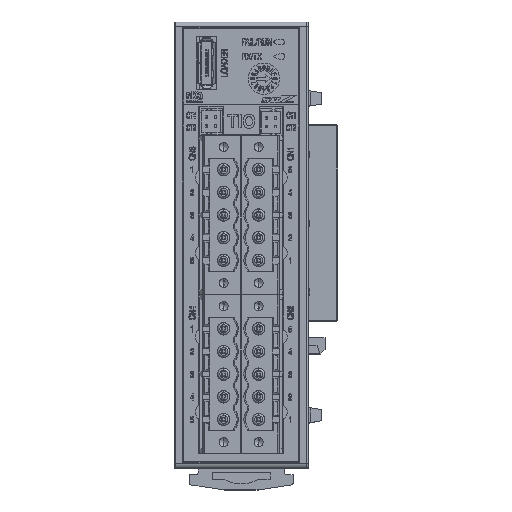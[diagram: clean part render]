
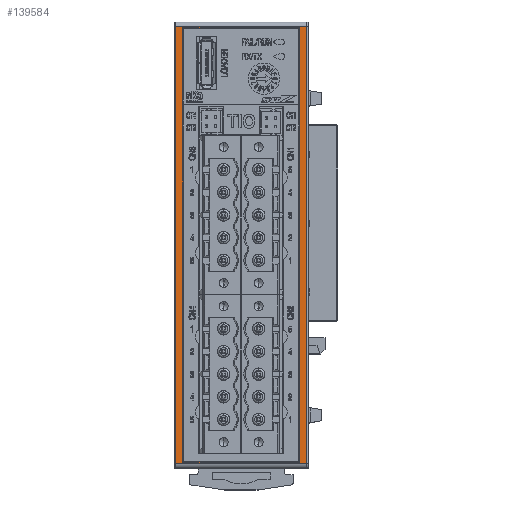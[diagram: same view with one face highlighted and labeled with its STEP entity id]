
A CAD part, top view. The second image highlights one B-rep face of the part: STEP entity #139584.
In plain terms, the highlighted planar face has unit normal (0, 0, 1).
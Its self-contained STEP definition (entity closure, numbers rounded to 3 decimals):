
#200 = ORIENTED_EDGE ( 'NONE', *, *, #58895, .T. ) ;
#2503 = LINE ( 'NONE', #114619, #36955 ) ;
#5827 = CARTESIAN_POINT ( 'NONE',  ( -15., -50., 76.85 ) ) ;
#6584 = CARTESIAN_POINT ( 'NONE',  ( -13.05, 48.7, 76.85 ) ) ;
#8669 = DIRECTION ( 'NONE',  ( 1., 0., 0. ) ) ;
#9363 = CARTESIAN_POINT ( 'NONE',  ( -13.05, -48.7, 76.85 ) ) ;
#11363 = EDGE_CURVE ( 'NONE', #145182, #145999, #116810, .T. ) ;
#11618 = DIRECTION ( 'NONE',  ( 0., 1., 0. ) ) ;
#12581 = VERTEX_POINT ( 'NONE', #17096 ) ;
#17096 = CARTESIAN_POINT ( 'NONE',  ( 14.75, -49., 76.85 ) ) ;
#17740 = DIRECTION ( 'NONE',  ( 0., 0., 1. ) ) ;
#24517 = VECTOR ( 'NONE', #120252, 1000. ) ;
#26663 = DIRECTION ( 'NONE',  ( 0., -1., 0. ) ) ;
#35628 = VECTOR ( 'NONE', #11618, 1000. ) ;
#36876 = LINE ( 'NONE', #156458, #146297 ) ;
#36955 = VECTOR ( 'NONE', #8669, 1000. ) ;
#37661 = CARTESIAN_POINT ( 'NONE',  ( -14.75, -49., 76.85 ) ) ;
#38200 = EDGE_CURVE ( 'NONE', #145999, #51884, #105675, .T. ) ;
#41458 = VERTEX_POINT ( 'NONE', #71950 ) ;
#44676 = DIRECTION ( 'NONE',  ( -1., 0., 0. ) ) ;
#44796 = FACE_BOUND ( 'NONE', #88548, .T. ) ;
#47564 = CARTESIAN_POINT ( 'NONE',  ( 13.05, -48.7, 76.85 ) ) ;
#50129 = DIRECTION ( 'NONE',  ( 0., -1., 0. ) ) ;
#51658 = DIRECTION ( 'NONE',  ( -1., 0., 0. ) ) ;
#51884 = VERTEX_POINT ( 'NONE', #54774 ) ;
#51983 = DIRECTION ( 'NONE',  ( 0., 1., 0. ) ) ;
#53085 = AXIS2_PLACEMENT_3D ( 'NONE', #5827, #17740, #83511 ) ;
#53733 = LINE ( 'NONE', #114741, #75258 ) ;
#54774 = CARTESIAN_POINT ( 'NONE',  ( 13.05, 48.7, 76.85 ) ) ;
#58895 = EDGE_CURVE ( 'NONE', #12581, #41458, #139021, .T. ) ;
#59910 = EDGE_CURVE ( 'NONE', #51884, #92862, #130457, .T. ) ;
#60888 = EDGE_CURVE ( 'NONE', #92862, #145182, #136242, .T. ) ;
#62803 = CARTESIAN_POINT ( 'NONE',  ( 14.75, 49., 76.85 ) ) ;
#67176 = FACE_OUTER_BOUND ( 'NONE', #121656, .T. ) ;
#71950 = CARTESIAN_POINT ( 'NONE',  ( 14.75, 49., 76.85 ) ) ;
#73689 = ORIENTED_EDGE ( 'NONE', *, *, #11363, .T. ) ;
#75258 = VECTOR ( 'NONE', #50129, 1000. ) ;
#79005 = EDGE_CURVE ( 'NONE', #110741, #141450, #53733, .T. ) ;
#83511 = DIRECTION ( 'NONE',  ( 1., 0., 0. ) ) ;
#88548 = EDGE_LOOP ( 'NONE', ( #100512, #161385, #167484, #73689 ) ) ;
#92862 = VERTEX_POINT ( 'NONE', #47564 ) ;
#93684 = CARTESIAN_POINT ( 'NONE',  ( -13.05, 48.7, 76.85 ) ) ;
#94133 = EDGE_CURVE ( 'NONE', #41458, #110741, #36876, .T. ) ;
#95963 = PLANE ( 'NONE',  #53085 ) ;
#95988 = VECTOR ( 'NONE', #26663, 1000. ) ;
#100512 = ORIENTED_EDGE ( 'NONE', *, *, #38200, .T. ) ;
#105675 = LINE ( 'NONE', #93684, #24517 ) ;
#110400 = CARTESIAN_POINT ( 'NONE',  ( 13.05, -48.7, 76.85 ) ) ;
#110741 = VERTEX_POINT ( 'NONE', #121005 ) ;
#114619 = CARTESIAN_POINT ( 'NONE',  ( 15., -49., 76.85 ) ) ;
#114741 = CARTESIAN_POINT ( 'NONE',  ( -14.75, -49., 76.85 ) ) ;
#116810 = LINE ( 'NONE', #9363, #35628 ) ;
#120252 = DIRECTION ( 'NONE',  ( 1., 0., 0. ) ) ;
#121005 = CARTESIAN_POINT ( 'NONE',  ( -14.75, 49., 76.85 ) ) ;
#121656 = EDGE_LOOP ( 'NONE', ( #165155, #167176, #138044, #200 ) ) ;
#124675 = CARTESIAN_POINT ( 'NONE',  ( -13.05, -48.7, 76.85 ) ) ;
#130006 = EDGE_CURVE ( 'NONE', #141450, #12581, #2503, .T. ) ;
#130457 = LINE ( 'NONE', #156377, #95988 ) ;
#134169 = VECTOR ( 'NONE', #44676, 1000. ) ;
#134946 = VECTOR ( 'NONE', #51983, 1000. ) ;
#136242 = LINE ( 'NONE', #110400, #134169 ) ;
#138044 = ORIENTED_EDGE ( 'NONE', *, *, #130006, .T. ) ;
#139021 = LINE ( 'NONE', #62803, #134946 ) ;
#139584 = ADVANCED_FACE ( 'NONE', ( #67176, #44796 ), #95963, .T. ) ;
#141450 = VERTEX_POINT ( 'NONE', #37661 ) ;
#145182 = VERTEX_POINT ( 'NONE', #124675 ) ;
#145999 = VERTEX_POINT ( 'NONE', #6584 ) ;
#146297 = VECTOR ( 'NONE', #51658, 1000. ) ;
#156377 = CARTESIAN_POINT ( 'NONE',  ( 13.05, 48.7, 76.85 ) ) ;
#156458 = CARTESIAN_POINT ( 'NONE',  ( -15., 49., 76.85 ) ) ;
#161385 = ORIENTED_EDGE ( 'NONE', *, *, #59910, .T. ) ;
#165155 = ORIENTED_EDGE ( 'NONE', *, *, #94133, .T. ) ;
#167176 = ORIENTED_EDGE ( 'NONE', *, *, #79005, .T. ) ;
#167484 = ORIENTED_EDGE ( 'NONE', *, *, #60888, .T. ) ;
